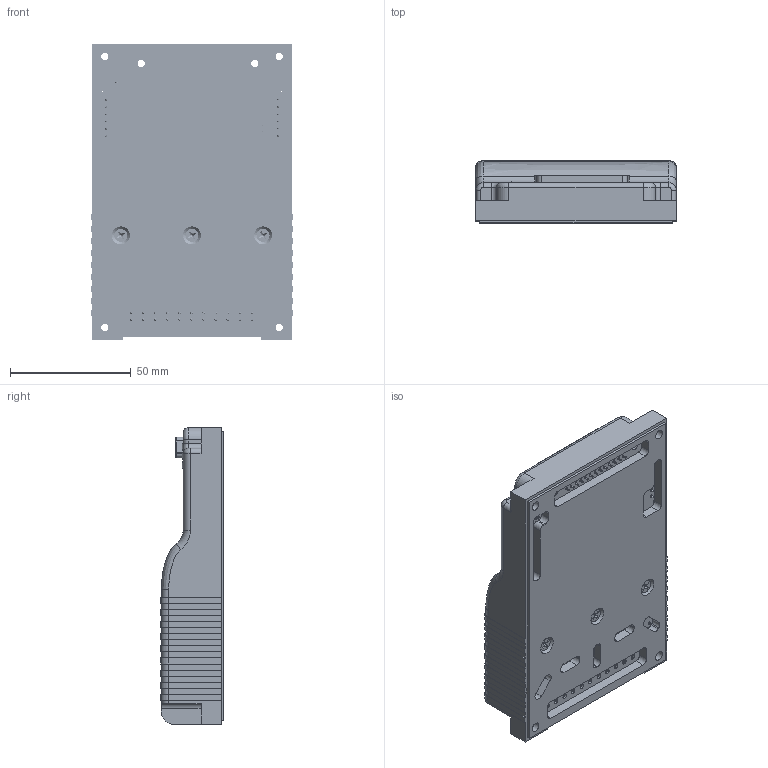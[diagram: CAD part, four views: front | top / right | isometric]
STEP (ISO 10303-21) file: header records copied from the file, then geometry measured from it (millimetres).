
FILE_DESCRIPTION (( 'STEP AP214' ), '1' );
FILE_NAME ('SBL23xxT_CAD_v11a.STEP', '2020-03-31T22:58:26', ( '' ), ( '' ), 'SwSTEP 2.0', 'SolidWorks 2018', '' );
FILE_SCHEMA (( 'AUTOMOTIVE_DESIGN' ));
Length unit declared in the file: millimetre
Products named in the file (8): SBL23xxT_CASE_V20; 60900213421_Jumper; 91771A112_4-40_Philips_91771A112; 90480A005_4-40_Nut_90480A005; SBL23xxT_BP_v11; SBL23xxT_CAD_v11a; SBL23xxT_PCB_v11a; ledpipe_025
Assembly tree (13 placements, depth 2):
  SBL23xxT_CAD_v11a
    SBL23xxT_PCB_v11a
    SBL23xxT_BP_v11
    SBL23xxT_CASE_V20
    ledpipe_025  x3
    90480A005_4-40_Nut_90480A005  x3
    91771A112_4-40_Philips_91771A112  x3
    60900213421_Jumper
Bounding box: 83.6 x 25.9 x 123 mm (x, y, z)
Volume: 60377.4 mm3; surface area: 95507.9 mm2
Topology: 13 solids, 54 shells, 3882 faces, 10100 edges, 6540 vertices
Faces by surface type: plane 2353, cylinder 971, bspline 255, torus 182, cone 105, sphere 16
Full cylindrical faces by diameter (mm): 0.45 x5, 0.889 x25, 0.9 x2, 1 x34, 1.1 x10, 1.5 x4, 2 x22, 2.8 x11, 2.845 x3, 2.9 x3, 3 x6, 3.048 x7, 3.124 x2, 3.2 x4, 3.5 x11, 3.85 x7, 6 x3, 6.2 x4
Entity records: 151620 total; most frequent: CARTESIAN_POINT 34012, ORIENTED_EDGE 18493, DIRECTION 16171, EDGE_CURVE 9272, VERTEX_POINT 6135, VECTOR 5597, LINE 5597, AXIS2_PLACEMENT_3D 5287
